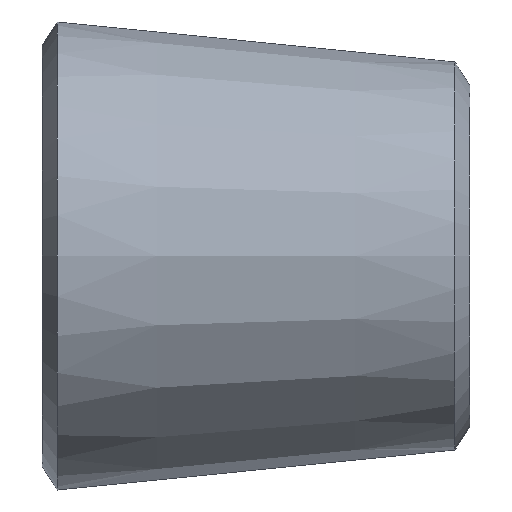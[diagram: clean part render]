
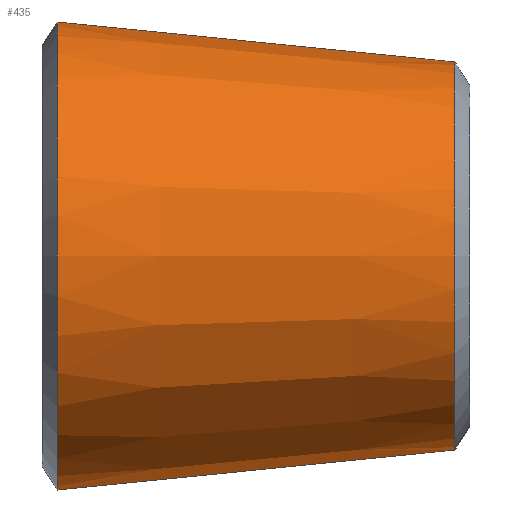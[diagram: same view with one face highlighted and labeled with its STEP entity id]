
A CAD part, front view. The second image highlights one B-rep face of the part: STEP entity #435.
In plain terms, the highlighted conical face has half-angle 5.733 degrees and reference radius 57.15 mm.
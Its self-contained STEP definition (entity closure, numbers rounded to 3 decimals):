
#25 = FACE_OUTER_BOUND ( 'NONE', #314, .T. ) ;
#43 = DIRECTION ( 'NONE',  ( -1., 0., 0. ) ) ;
#74 = CARTESIAN_POINT ( 'NONE',  ( 127., 0., 57.15 ) ) ;
#82 = EDGE_CURVE ( 'NONE', #396, #715, #736, .T. ) ;
#99 = DIRECTION ( 'NONE',  ( -0.995, 0., -0.1 ) ) ;
#111 = ORIENTED_EDGE ( 'NONE', *, *, #82, .T. ) ;
#140 = AXIS2_PLACEMENT_3D ( 'NONE', #769, #182, #441 ) ;
#150 = ORIENTED_EDGE ( 'NONE', *, *, #784, .T. ) ;
#157 = DIRECTION ( 'NONE',  ( 0., 0., 1. ) ) ;
#164 = CARTESIAN_POINT ( 'NONE',  ( 122.508, 0., 57.601 ) ) ;
#182 = DIRECTION ( 'NONE',  ( -1., 0., 0. ) ) ;
#187 = CARTESIAN_POINT ( 'NONE',  ( 4.491, 0., 69.449 ) ) ;
#210 = CONICAL_SURFACE ( 'NONE', #296, 57.15, 0.1 ) ;
#224 = DIRECTION ( 'NONE',  ( -0.995, 0., 0.1 ) ) ;
#233 = EDGE_CURVE ( 'NONE', #476, #580, #481, .T. ) ;
#289 = CARTESIAN_POINT ( 'NONE',  ( 127., 0., 0. ) ) ;
#293 = CARTESIAN_POINT ( 'NONE',  ( 127., 0., -57.15 ) ) ;
#296 = AXIS2_PLACEMENT_3D ( 'NONE', #289, #477, #157 ) ;
#311 = CARTESIAN_POINT ( 'NONE',  ( 122.508, 0., -57.601 ) ) ;
#314 = EDGE_LOOP ( 'NONE', ( #516, #150, #111, #369 ) ) ;
#320 = CIRCLE ( 'NONE', #504, 69.449 ) ;
#369 = ORIENTED_EDGE ( 'NONE', *, *, #776, .F. ) ;
#396 = VERTEX_POINT ( 'NONE', #164 ) ;
#435 = ADVANCED_FACE ( 'NONE', ( #25 ), #210, .T. ) ;
#441 = DIRECTION ( 'NONE',  ( 0., 0., 1. ) ) ;
#476 = VERTEX_POINT ( 'NONE', #311 ) ;
#477 = DIRECTION ( 'NONE',  ( -1., 0., 0. ) ) ;
#481 = LINE ( 'NONE', #293, #631 ) ;
#504 = AXIS2_PLACEMENT_3D ( 'NONE', #637, #43, #766 ) ;
#516 = ORIENTED_EDGE ( 'NONE', *, *, #233, .F. ) ;
#580 = VERTEX_POINT ( 'NONE', #823 ) ;
#631 = VECTOR ( 'NONE', #99, 1000. ) ;
#637 = CARTESIAN_POINT ( 'NONE',  ( 4.491, 0., 0. ) ) ;
#699 = VECTOR ( 'NONE', #224, 1000. ) ;
#715 = VERTEX_POINT ( 'NONE', #187 ) ;
#736 = LINE ( 'NONE', #74, #699 ) ;
#757 = CIRCLE ( 'NONE', #140, 57.601 ) ;
#766 = DIRECTION ( 'NONE',  ( 0., 0., 1. ) ) ;
#769 = CARTESIAN_POINT ( 'NONE',  ( 122.508, 0., 0. ) ) ;
#776 = EDGE_CURVE ( 'NONE', #580, #715, #320, .T. ) ;
#784 = EDGE_CURVE ( 'NONE', #476, #396, #757, .T. ) ;
#823 = CARTESIAN_POINT ( 'NONE',  ( 4.491, 0., -69.449 ) ) ;
